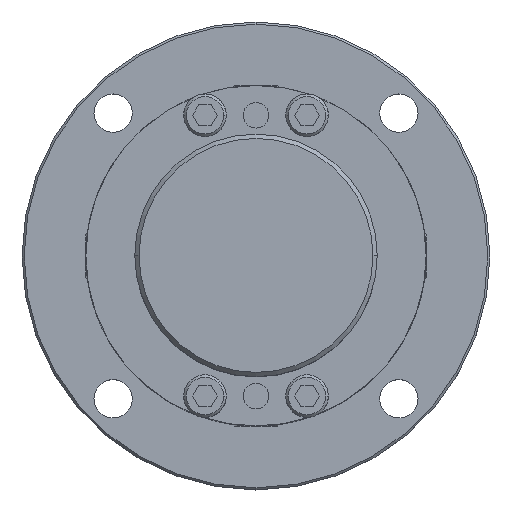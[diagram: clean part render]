
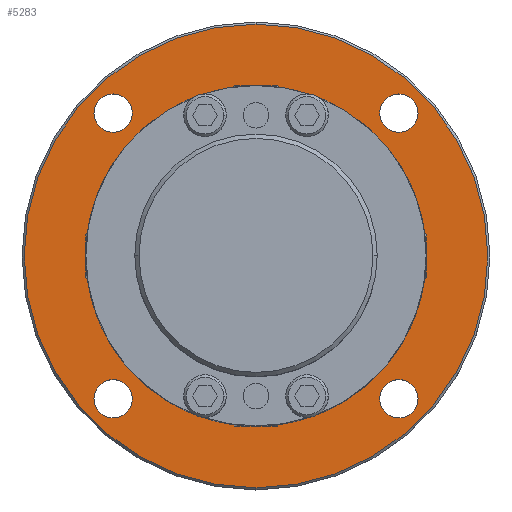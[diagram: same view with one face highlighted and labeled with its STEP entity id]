
A CAD part, top view. The second image highlights one B-rep face of the part: STEP entity #5283.
In plain terms, the highlighted planar face has unit normal (0, 0, 1).
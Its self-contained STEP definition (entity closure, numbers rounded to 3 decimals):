
#730=CARTESIAN_POINT('',(0.,-40.,-16.));
#731=VERTEX_POINT('',#730);
#847=CARTESIAN_POINT('',(0.,40.,-16.));
#848=VERTEX_POINT('',#847);
#855=CARTESIAN_POINT('',(0.0,0.,-16.));
#856=DIRECTION('',(0.0,0.0,-1.0));
#857=DIRECTION('',(0.0,1.0,0.0));
#858=AXIS2_PLACEMENT_3D('',#855,#856,#857);
#859=CIRCLE('',#858,40.0);
#860=EDGE_CURVE('',#731,#848,#859,.T.);
#1557=CARTESIAN_POINT('',(-33.588,38.088,-16.0));
#1558=VERTEX_POINT('',#1557);
#1567=CARTESIAN_POINT('',(-33.588,29.088,-16.));
#1568=VERTEX_POINT('',#1567);
#1569=CARTESIAN_POINT('',(-33.588,33.588,-16.));
#1570=DIRECTION('',(0.0,0.0,-1.0));
#1571=DIRECTION('',(0.0,1.0,0.0));
#1572=AXIS2_PLACEMENT_3D('',#1569,#1570,#1571);
#1573=CIRCLE('',#1572,4.5);
#1574=EDGE_CURVE('',#1568,#1558,#1573,.T.);
#1599=CARTESIAN_POINT('',(33.588,38.088,-16.0));
#1600=VERTEX_POINT('',#1599);
#1609=CARTESIAN_POINT('',(33.588,29.088,-16.));
#1610=VERTEX_POINT('',#1609);
#1611=CARTESIAN_POINT('',(33.588,33.588,-16.));
#1612=DIRECTION('',(0.0,0.0,-1.0));
#1613=DIRECTION('',(0.0,1.0,0.0));
#1614=AXIS2_PLACEMENT_3D('',#1611,#1612,#1613);
#1615=CIRCLE('',#1614,4.5);
#1616=EDGE_CURVE('',#1610,#1600,#1615,.T.);
#1641=CARTESIAN_POINT('',(33.588,-29.088,-16.0));
#1642=VERTEX_POINT('',#1641);
#1651=CARTESIAN_POINT('',(33.588,-38.088,-16.));
#1652=VERTEX_POINT('',#1651);
#1653=CARTESIAN_POINT('',(33.588,-33.588,-16.));
#1654=DIRECTION('',(0.0,0.0,-1.0));
#1655=DIRECTION('',(0.0,1.0,0.0));
#1656=AXIS2_PLACEMENT_3D('',#1653,#1654,#1655);
#1657=CIRCLE('',#1656,4.5);
#1658=EDGE_CURVE('',#1652,#1642,#1657,.T.);
#1683=CARTESIAN_POINT('',(-33.588,-29.088,-16.0));
#1684=VERTEX_POINT('',#1683);
#1693=CARTESIAN_POINT('',(-33.588,-38.088,-16.));
#1694=VERTEX_POINT('',#1693);
#1695=CARTESIAN_POINT('',(-33.588,-33.588,-16.));
#1696=DIRECTION('',(0.0,0.0,-1.0));
#1697=DIRECTION('',(0.0,1.0,0.0));
#1698=AXIS2_PLACEMENT_3D('',#1695,#1696,#1697);
#1699=CIRCLE('',#1698,4.5);
#1700=EDGE_CURVE('',#1694,#1684,#1699,.T.);
#2231=CARTESIAN_POINT('',(0.,-54.5,-16.));
#2232=VERTEX_POINT('',#2231);
#2241=CARTESIAN_POINT('',(0.,54.5,-16.));
#2242=VERTEX_POINT('',#2241);
#2243=CARTESIAN_POINT('',(0.0,0.,-16.));
#2244=DIRECTION('',(0.0,0.0,-1.0));
#2245=DIRECTION('',(0.0,-1.0,0.0));
#2246=AXIS2_PLACEMENT_3D('',#2243,#2244,#2245);
#2247=CIRCLE('',#2246,54.5);
#2248=EDGE_CURVE('',#2232,#2242,#2247,.T.);
#5214=CARTESIAN_POINT('',(0.0,0.,-16.));
#5215=DIRECTION('',(0.0,0.0,-1.0));
#5216=DIRECTION('',(0.0,-1.0,0.0));
#5217=AXIS2_PLACEMENT_3D('',#5214,#5215,#5216);
#5218=CIRCLE('',#5217,54.5);
#5219=EDGE_CURVE('',#2242,#2232,#5218,.T.);
#5224=CARTESIAN_POINT('',(0.,5.,-16.));
#5225=DIRECTION('',(0.0,0.0,1.0));
#5226=DIRECTION('',(0.0,1.0,0.0));
#5227=AXIS2_PLACEMENT_3D('',#5224,#5225,#5226);
#5228=PLANE('',#5227);
#5229=ORIENTED_EDGE('',*,*,#5219,.F.);
#5230=ORIENTED_EDGE('',*,*,#2248,.F.);
#5231=EDGE_LOOP('',(#5229,#5230));
#5232=FACE_OUTER_BOUND('',#5231,.T.);
#5233=ORIENTED_EDGE('',*,*,#860,.T.);
#5234=CARTESIAN_POINT('',(0.0,0.,-16.));
#5235=DIRECTION('',(0.0,0.0,-1.0));
#5236=DIRECTION('',(0.0,1.0,0.0));
#5237=AXIS2_PLACEMENT_3D('',#5234,#5235,#5236);
#5238=CIRCLE('',#5237,40.0);
#5239=EDGE_CURVE('',#848,#731,#5238,.T.);
#5240=ORIENTED_EDGE('',*,*,#5239,.T.);
#5241=EDGE_LOOP('',(#5233,#5240));
#5242=FACE_BOUND('',#5241,.T.);
#5243=ORIENTED_EDGE('',*,*,#1574,.T.);
#5244=CARTESIAN_POINT('',(-33.588,33.588,-16.));
#5245=DIRECTION('',(0.0,0.0,-1.0));
#5246=DIRECTION('',(0.0,1.0,0.0));
#5247=AXIS2_PLACEMENT_3D('',#5244,#5245,#5246);
#5248=CIRCLE('',#5247,4.5);
#5249=EDGE_CURVE('',#1558,#1568,#5248,.T.);
#5250=ORIENTED_EDGE('',*,*,#5249,.T.);
#5251=EDGE_LOOP('',(#5243,#5250));
#5252=FACE_BOUND('',#5251,.T.);
#5253=ORIENTED_EDGE('',*,*,#1616,.T.);
#5254=CARTESIAN_POINT('',(33.588,33.588,-16.));
#5255=DIRECTION('',(0.0,0.0,-1.0));
#5256=DIRECTION('',(0.0,1.0,0.0));
#5257=AXIS2_PLACEMENT_3D('',#5254,#5255,#5256);
#5258=CIRCLE('',#5257,4.5);
#5259=EDGE_CURVE('',#1600,#1610,#5258,.T.);
#5260=ORIENTED_EDGE('',*,*,#5259,.T.);
#5261=EDGE_LOOP('',(#5253,#5260));
#5262=FACE_BOUND('',#5261,.T.);
#5263=ORIENTED_EDGE('',*,*,#1658,.T.);
#5264=CARTESIAN_POINT('',(33.588,-33.588,-16.));
#5265=DIRECTION('',(0.0,0.0,-1.0));
#5266=DIRECTION('',(0.0,1.0,0.0));
#5267=AXIS2_PLACEMENT_3D('',#5264,#5265,#5266);
#5268=CIRCLE('',#5267,4.5);
#5269=EDGE_CURVE('',#1642,#1652,#5268,.T.);
#5270=ORIENTED_EDGE('',*,*,#5269,.T.);
#5271=EDGE_LOOP('',(#5263,#5270));
#5272=FACE_BOUND('',#5271,.T.);
#5273=ORIENTED_EDGE('',*,*,#1700,.T.);
#5274=CARTESIAN_POINT('',(-33.588,-33.588,-16.));
#5275=DIRECTION('',(0.0,0.0,-1.0));
#5276=DIRECTION('',(0.0,1.0,0.0));
#5277=AXIS2_PLACEMENT_3D('',#5274,#5275,#5276);
#5278=CIRCLE('',#5277,4.5);
#5279=EDGE_CURVE('',#1684,#1694,#5278,.T.);
#5280=ORIENTED_EDGE('',*,*,#5279,.T.);
#5281=EDGE_LOOP('',(#5273,#5280));
#5282=FACE_BOUND('',#5281,.T.);
#5283=ADVANCED_FACE('',(#5232,#5242,#5252,#5262,#5272,#5282),#5228,.T.);
